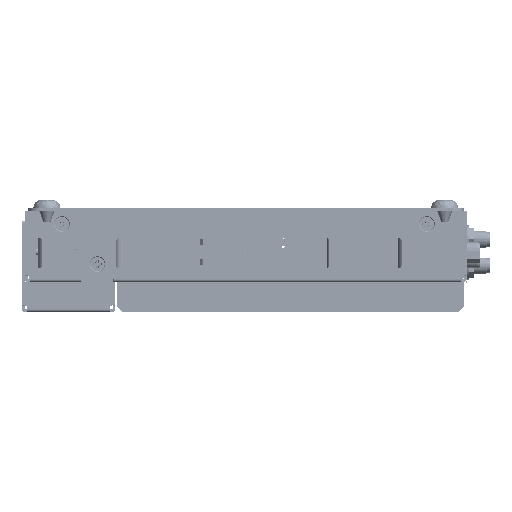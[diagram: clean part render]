
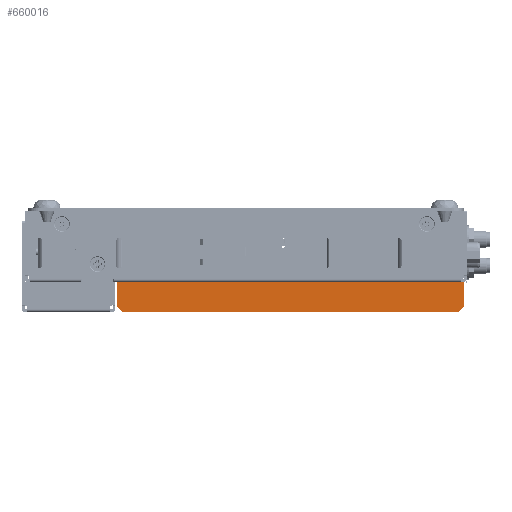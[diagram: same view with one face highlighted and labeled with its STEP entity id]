
A CAD part, left-side view. The second image highlights one B-rep face of the part: STEP entity #660016.
In plain terms, the highlighted planar face has unit normal (-1, 0, 0).
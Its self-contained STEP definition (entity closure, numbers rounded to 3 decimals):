
#173216=DIRECTION('',(0.,1.,0.));
#173217=VECTOR('',#173216,126.5);
#173218=CARTESIAN_POINT('',(-123.5,1.,-22.5));
#173219=LINE('',#173218,#173217);
#213858=DIRECTION('',(0.,0.,-1.));
#213859=VECTOR('',#213858,9.);
#213860=CARTESIAN_POINT('',(-123.5,1.,-22.5));
#213861=LINE('',#213860,#213859);
#213862=DIRECTION('',(0.,0.707,-0.707));
#213863=VECTOR('',#213862,2.828);
#213864=CARTESIAN_POINT('',(-123.5,1.,-31.5));
#213865=LINE('',#213864,#213863);
#213866=DIRECTION('',(0.,0.707,0.707));
#213867=VECTOR('',#213866,2.828);
#213868=CARTESIAN_POINT('',(-123.5,125.5,-33.5));
#213869=LINE('',#213868,#213867);
#213870=DIRECTION('',(0.,0.,1.));
#213871=VECTOR('',#213870,9.);
#213872=CARTESIAN_POINT('',(-123.5,127.5,-31.5));
#213873=LINE('',#213872,#213871);
#217978=DIRECTION('',(0.,1.,0.));
#217979=VECTOR('',#217978,122.5);
#217980=CARTESIAN_POINT('',(-123.5,3.,-33.5));
#217981=LINE('',#217980,#217979);
#230407=CARTESIAN_POINT('',(-123.5,1.,-31.5));
#230408=CARTESIAN_POINT('',(-123.5,3.,-33.5));
#230409=VERTEX_POINT('',#230407);
#230410=VERTEX_POINT('',#230408);
#230660=CARTESIAN_POINT('',(-123.5,127.5,-31.5));
#230662=VERTEX_POINT('',#230660);
#231141=CARTESIAN_POINT('',(-123.5,125.5,-33.5));
#231142=VERTEX_POINT('',#231141);
#291526=CARTESIAN_POINT('',(-123.5,1.,-22.5));
#291528=VERTEX_POINT('',#291526);
#291552=CARTESIAN_POINT('',(-123.5,127.5,-22.5));
#291553=VERTEX_POINT('',#291552);
#660000=CARTESIAN_POINT('',(-123.5,64.25,-28.));
#660001=DIRECTION('',(1.,0.,0.));
#660002=DIRECTION('',(0.,0.,-1.));
#660003=AXIS2_PLACEMENT_3D('',#660000,#660001,#660002);
#660004=PLANE('',#660003);
#660005=ORIENTED_EDGE('',*,*,#575065,.F.);
#660006=ORIENTED_EDGE('',*,*,#575846,.T.);
#660008=ORIENTED_EDGE('',*,*,#660007,.T.);
#660010=ORIENTED_EDGE('',*,*,#660009,.T.);
#660012=ORIENTED_EDGE('',*,*,#660011,.T.);
#660013=ORIENTED_EDGE('',*,*,#659505,.T.);
#660014=EDGE_LOOP('',(#660005,#660006,#660008,#660010,#660012,#660013));
#660015=FACE_OUTER_BOUND('',#660014,.F.);
#660016=ADVANCED_FACE('',(#660015),#660004,.F.);
#575065=EDGE_CURVE('',#291528,#291553,#173219,.T.);
#575846=EDGE_CURVE('',#291528,#230409,#213861,.T.);
#659505=EDGE_CURVE('',#230662,#291553,#213873,.T.);
#660007=EDGE_CURVE('',#230409,#230410,#213865,.T.);
#660009=EDGE_CURVE('',#230410,#231142,#217981,.T.);
#660011=EDGE_CURVE('',#231142,#230662,#213869,.T.);
